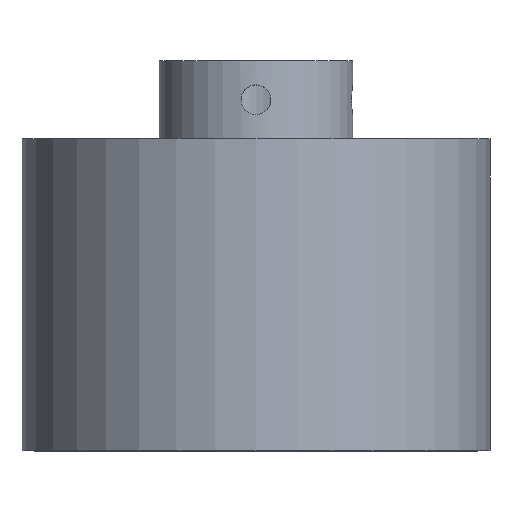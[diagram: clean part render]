
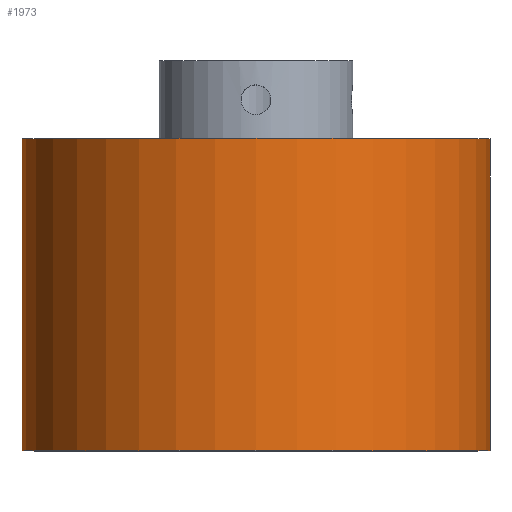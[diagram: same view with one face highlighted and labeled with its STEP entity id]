
A CAD part, top view. The second image highlights one B-rep face of the part: STEP entity #1973.
In plain terms, the highlighted cylindrical face has radius 38.1 mm (diameter 76.2 mm), a full revolution.
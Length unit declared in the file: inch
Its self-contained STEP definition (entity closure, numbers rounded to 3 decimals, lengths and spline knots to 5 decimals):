
#269=FACE_OUTER_BOUND('',#378,.T.);
#378=EDGE_LOOP('',(#1703,#1704,#1705,#1706));
#548=LINE('',#3309,#694);
#694=VECTOR('',#2765,1.5);
#701=CIRCLE('',#2006,1.5);
#814=CIRCLE('',#2204,1.5);
#821=VERTEX_POINT('',#2800);
#990=VERTEX_POINT('',#3307);
#1006=EDGE_CURVE('',#821,#821,#701,.T.);
#1259=EDGE_CURVE('',#990,#990,#814,.T.);
#1260=EDGE_CURVE('',#990,#821,#548,.T.);
#1703=ORIENTED_EDGE('',*,*,#1259,.F.);
#1704=ORIENTED_EDGE('',*,*,#1260,.T.);
#1705=ORIENTED_EDGE('',*,*,#1006,.F.);
#1706=ORIENTED_EDGE('',*,*,#1260,.F.);
#1882=CYLINDRICAL_SURFACE('',#2203,1.5);
#1973=ADVANCED_FACE('',(#269),#1882,.T.);
#2006=AXIS2_PLACEMENT_3D('',#2801,#2227,#2228);
#2203=AXIS2_PLACEMENT_3D('',#3306,#2761,#2762);
#2204=AXIS2_PLACEMENT_3D('',#3308,#2763,#2764);
#2227=DIRECTION('center_axis',(0.,-1.,0.));
#2228=DIRECTION('ref_axis',(-1.,0.,0.));
#2761=DIRECTION('center_axis',(0.,1.,0.));
#2762=DIRECTION('ref_axis',(-1.,0.,0.));
#2763=DIRECTION('center_axis',(0.,1.,0.));
#2764=DIRECTION('ref_axis',(-1.,0.,0.));
#2765=DIRECTION('',(0.,-1.,0.));
#2800=CARTESIAN_POINT('',(1.5,-1.,0.));
#2801=CARTESIAN_POINT('Origin',(0.,-1.,0.));
#3306=CARTESIAN_POINT('Origin',(0.,0.,0.));
#3307=CARTESIAN_POINT('',(1.5,1.,0.));
#3308=CARTESIAN_POINT('Origin',(0.,1.,0.));
#3309=CARTESIAN_POINT('',(1.5,0.,0.));
